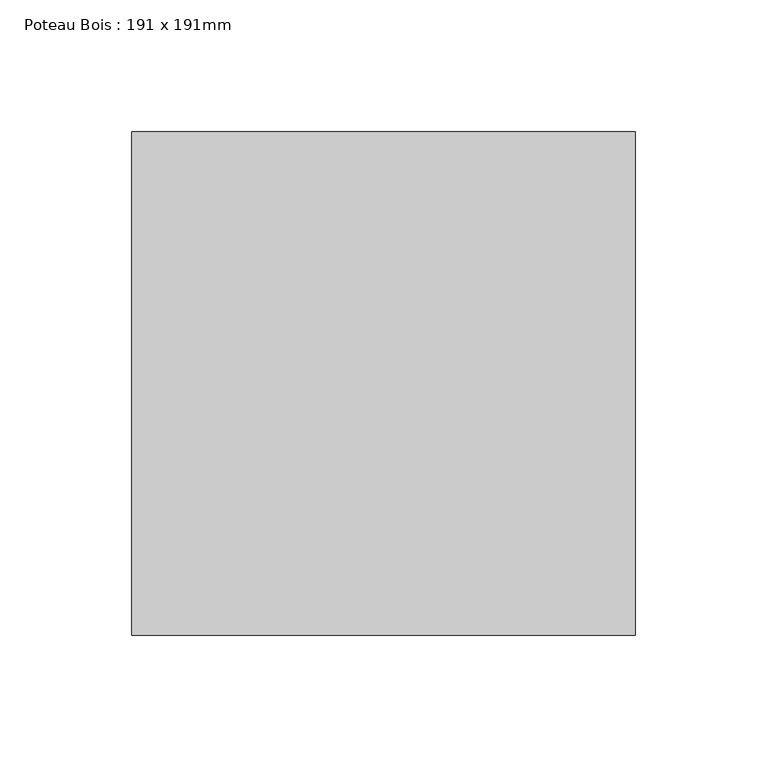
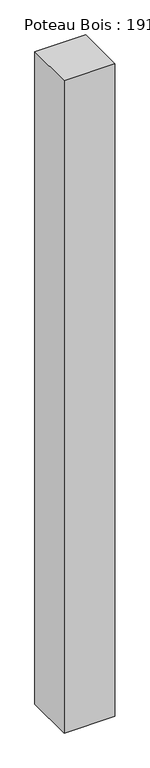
"""IFC4 building model written with IfcOpenShell, lengths in millimetres: column geometry, Poteau Bois : 191 x 191mm."""

from ifc_helpers import new_model, si_unit, frame, origin, place, context, project, spatial, polyline, outline, extrude, source, transform, mapped, element, save


def poteau_bois_191_x_191mm_65af8a0f(model_context):
    return source(origin(), model_context, "Body", "SweptSolid", [
        extrude(outline(polyline([(95.5, -95.5), (-95.5, -95.5), (-95.5, 95.5), (95.5, 95.5), (95.5, -95.5)])), frame((0.0, 0.0, 3000.0), z_axis=(0.0, 0.0, 1.0), x_axis=(1.0, 0.0, 0.0)), (0.0, 0.0, 1.0), 2600.0),
    ])


if __name__ == "__main__":
    model = new_model("IFC4")
    model_context = context("Model", 3, world=origin())
    ifc_project = project(units=[si_unit("LENGTHUNIT", "METRE", prefix="MILLI")], contexts=[model_context])
    site = spatial("IfcSite", under=ifc_project)
    building = spatial("IfcBuilding", under=site)
    placement = place(None, origin())
    poteau_bois_191_x_191mm_shape = poteau_bois_191_x_191mm_65af8a0f(model_context)
    element("IfcColumn", 1, ObjectType="Poteau Bois : 191 x 191mm", at=placement, inside=building, context=model_context, shape_type="MappedRepresentation", body=[
        mapped(poteau_bois_191_x_191mm_shape, transform((0.0, 0.0, 0.0), x_axis=(1.0, 0.0, 0.0), y_axis=(0.0, 1.0, 0.0), z_axis=(0.0, 0.0, 1.0))),
    ])
    save(model, "model.ifc")
